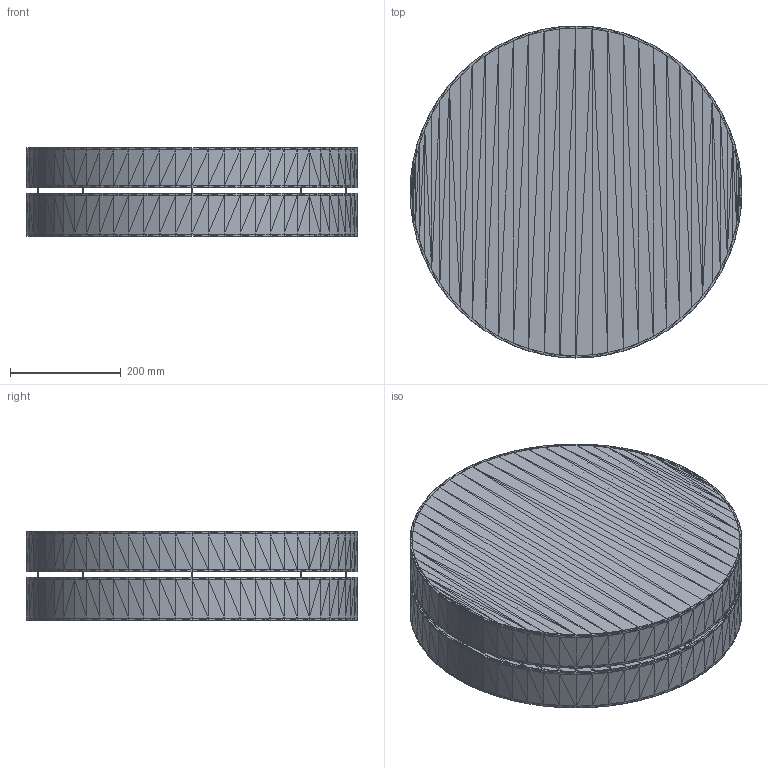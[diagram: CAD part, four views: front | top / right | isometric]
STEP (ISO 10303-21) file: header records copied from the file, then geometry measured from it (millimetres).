
FILE_DESCRIPTION(('FreeCAD Model'),'2;1');
FILE_NAME('Open CASCADE Shape Model','2022-11-30T08:46:47',('Author'),( ''),'Open CASCADE STEP processor 7.6','FreeCAD','Unknown');
FILE_SCHEMA(('AUTOMOTIVE_DESIGN { 1 0 10303 214 1 1 1 1 }'));
Length unit declared in the file: millimetre
Products named in the file (47): Unnamed; Mesh046 (Solid); Mesh001001 (Solid); Mesh002001 (Solid); Mesh003001 (Solid); Mesh004001 (Solid); Mesh005001 (Solid); Mesh006001 (Solid); Mesh007001 (Solid); Mesh008001 (Solid); Mesh009001 (Solid); Mesh010001 (Solid); Mesh011001 (Solid); Mesh012001 (Solid); Mesh013001 (Solid); Mesh014001 (Solid); Mesh015001 (Solid); Mesh016001 (Solid); Mesh017001 (Solid); Mesh018001 (Solid); Mesh019001 (Solid); Mesh020001 (Solid); Mesh021001 (Solid); Mesh022001 (Solid); Mesh023001 (Solid); Mesh024001 (Solid); Mesh025001 (Solid); Mesh026001 (Solid); Mesh027001 (Solid); Mesh028001 (Solid); Mesh029001 (Solid); Mesh030001 (Solid); Mesh031001 (Solid); Mesh032001 (Solid); Mesh033001 (Solid); Mesh034001 (Solid); Mesh035001 (Solid); Mesh036001 (Solid); Mesh037001 (Solid); Mesh038001 (Solid)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
Assembly tree (46 placements, depth 2):
  Unnamed
    Mesh046 (Solid)
    Mesh001001 (Solid)
    Mesh002001 (Solid)
    Mesh003001 (Solid)
    Mesh004001 (Solid)
    Mesh005001 (Solid)
    Mesh006001 (Solid)
    Mesh007001 (Solid)
    Mesh008001 (Solid)
    Mesh009001 (Solid)
    Mesh010001 (Solid)
    Mesh011001 (Solid)
    Mesh012001 (Solid)
    Mesh013001 (Solid)
    Mesh014001 (Solid)
    Mesh015001 (Solid)
    Mesh016001 (Solid)
    Mesh017001 (Solid)
    Mesh018001 (Solid)
    Mesh019001 (Solid)
    Mesh020001 (Solid)
    Mesh021001 (Solid)
    Mesh022001 (Solid)
    Mesh023001 (Solid)
    Mesh024001 (Solid)
    Mesh025001 (Solid)
    Mesh026001 (Solid)
    Mesh027001 (Solid)
    Mesh028001 (Solid)
    Mesh029001 (Solid)
    Mesh030001 (Solid)
    Mesh031001 (Solid)
    Mesh032001 (Solid)
    Mesh033001 (Solid)
    Mesh034001 (Solid)
    Mesh035001 (Solid)
    Mesh036001 (Solid)
    Mesh037001 (Solid)
    Mesh038001 (Solid)
    Mesh039001 (Solid)
    Mesh040001 (Solid)
    Mesh041001 (Solid)
    Mesh042001 (Solid)
    Mesh043001 (Solid)
    Mesh044001 (Solid)
    Mesh045001 (Solid)
Bounding box: 600 x 600 x 160 mm (x, y, z)
Volume: 2519735.1 mm3; surface area: 1446753.8 mm2
Topology: 34 solids, 46 shells, 4936 faces, 8092 edges, 3224 vertices
Faces by surface type: plane 4936
Entity records: 199542 total; most frequent: DIRECTION 32866, CARTESIAN_POINT 31107, LINE 22900, VECTOR 22900, ORIENTED_EDGE 14808, PCURVE 14808, DEFINITIONAL_REPRESENTATION 14808, EDGE_CURVE 8092
